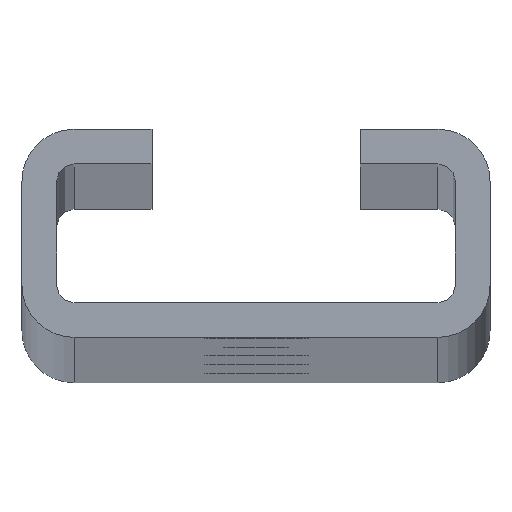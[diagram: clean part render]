
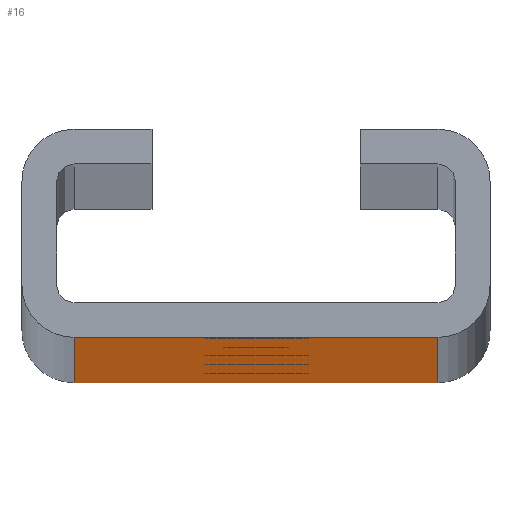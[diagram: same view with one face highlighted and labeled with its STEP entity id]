
A CAD part, top view. The second image highlights one B-rep face of the part: STEP entity #16.
In plain terms, the highlighted planar face has unit normal (0, -1, 0).
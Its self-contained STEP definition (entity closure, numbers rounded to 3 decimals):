
#16 = ADVANCED_FACE ( 'NONE', ( #761, #780, #760, #762, #782, #783, #781 ), #1365, .F. ) ;
#110 = ORIENTED_EDGE ( 'NONE', *, *, #736, .F. ) ;
#124 = ORIENTED_EDGE ( 'NONE', *, *, #737, .F. ) ;
#128 = VERTEX_POINT ( 'NONE', #799 ) ;
#132 = ORIENTED_EDGE ( 'NONE', *, *, #735, .T. ) ;
#134 = ORIENTED_EDGE ( 'NONE', *, *, #727, .T. ) ;
#136 = ORIENTED_EDGE ( 'NONE', *, *, #526, .T. ) ;
#137 = ORIENTED_EDGE ( 'NONE', *, *, #752, .T. ) ;
#138 = ORIENTED_EDGE ( 'NONE', *, *, #527, .T. ) ;
#146 = ORIENTED_EDGE ( 'NONE', *, *, #754, .T. ) ;
#187 = ORIENTED_EDGE ( 'NONE', *, *, #740, .T. ) ;
#196 = ORIENTED_EDGE ( 'NONE', *, *, #758, .T. ) ;
#199 = ORIENTED_EDGE ( 'NONE', *, *, #422, .T. ) ;
#222 = VERTEX_POINT ( 'NONE', #1216 ) ;
#225 = VERTEX_POINT ( 'NONE', #1212 ) ;
#226 = VERTEX_POINT ( 'NONE', #1211 ) ;
#227 = VERTEX_POINT ( 'NONE', #1210 ) ;
#229 = VERTEX_POINT ( 'NONE', #1205 ) ;
#234 = VERTEX_POINT ( 'NONE', #1194 ) ;
#235 = VERTEX_POINT ( 'NONE', #1193 ) ;
#239 = VERTEX_POINT ( 'NONE', #1188 ) ;
#240 = VERTEX_POINT ( 'NONE', #1187 ) ;
#243 = VERTEX_POINT ( 'NONE', #1184 ) ;
#244 = VERTEX_POINT ( 'NONE', #1183 ) ;
#246 = VERTEX_POINT ( 'NONE', #1181 ) ;
#273 = ORIENTED_EDGE ( 'NONE', *, *, #739, .T. ) ;
#276 = ORIENTED_EDGE ( 'NONE', *, *, #515, .T. ) ;
#277 = ORIENTED_EDGE ( 'NONE', *, *, #738, .T. ) ;
#331 = AXIS2_PLACEMENT_3D ( 'NONE', #1039, #1038, #1037 ) ;
#333 = AXIS2_PLACEMENT_3D ( 'NONE', #1029, #1028, #1027 ) ;
#338 = AXIS2_PLACEMENT_3D ( 'NONE', #993, #991, #988 ) ;
#339 = AXIS2_PLACEMENT_3D ( 'NONE', #985, #984, #983 ) ;
#343 = AXIS2_PLACEMENT_3D ( 'NONE', #933, #932, #931 ) ;
#345 = AXIS2_PLACEMENT_3D ( 'NONE', #897, #895, #893 ) ;
#346 = AXIS2_PLACEMENT_3D ( 'NONE', #891, #890, #889 ) ;
#347 = AXIS2_PLACEMENT_3D ( 'NONE', #886, #885, #884 ) ;
#348 = AXIS2_PLACEMENT_3D ( 'NONE', #879, #878, #876 ) ;
#353 = AXIS2_PLACEMENT_3D ( 'NONE', #846, #845, #844 ) ;
#354 = AXIS2_PLACEMENT_3D ( 'NONE', #843, #842, #841 ) ;
#356 = AXIS2_PLACEMENT_3D ( 'NONE', #829, #828, #827 ) ;
#419 = EDGE_CURVE ( 'NONE', #229, #243, #568, .T. ) ;
#422 = EDGE_CURVE ( 'NONE', #1472, #1473, #570, .T. ) ;
#462 = AXIS2_PLACEMENT_3D ( 'NONE', #1357, #1356, #1355 ) ;
#515 = EDGE_CURVE ( 'NONE', #246, #225, #579, .T. ) ;
#526 = EDGE_CURVE ( 'NONE', #235, #240, #582, .T. ) ;
#527 = EDGE_CURVE ( 'NONE', #239, #244, #586, .T. ) ;
#568 = CIRCLE ( 'NONE', #331, 3. ) ;
#570 = CIRCLE ( 'NONE', #333, 3. ) ;
#579 = LINE ( 'NONE', #1024, #581 ) ;
#581 = VECTOR ( 'NONE', #1026, 1000. ) ;
#582 = CIRCLE ( 'NONE', #338, 3. ) ;
#586 = CIRCLE ( 'NONE', #339, 3. ) ;
#610 = CIRCLE ( 'NONE', #343, 3. ) ;
#615 = CIRCLE ( 'NONE', #345, 3. ) ;
#624 = LINE ( 'NONE', #907, #627 ) ;
#626 = LINE ( 'NONE', #904, #629 ) ;
#627 = VECTOR ( 'NONE', #905, 1000. ) ;
#628 = LINE ( 'NONE', #901, #631 ) ;
#629 = VECTOR ( 'NONE', #902, 1000. ) ;
#630 = CIRCLE ( 'NONE', #347, 3. ) ;
#631 = VECTOR ( 'NONE', #900, 1000. ) ;
#632 = CIRCLE ( 'NONE', #346, 3. ) ;
#634 = CIRCLE ( 'NONE', #348, 3. ) ;
#651 = CIRCLE ( 'NONE', #353, 3. ) ;
#653 = CIRCLE ( 'NONE', #354, 3. ) ;
#660 = CIRCLE ( 'NONE', #356, 3. ) ;
#727 = EDGE_CURVE ( 'NONE', #240, #235, #610, .T. ) ;
#735 = EDGE_CURVE ( 'NONE', #225, #222, #624, .T. ) ;
#736 = EDGE_CURVE ( 'NONE', #246, #226, #626, .T. ) ;
#737 = EDGE_CURVE ( 'NONE', #226, #222, #628, .T. ) ;
#738 = EDGE_CURVE ( 'NONE', #243, #229, #615, .T. ) ;
#739 = EDGE_CURVE ( 'NONE', #234, #1471, #632, .T. ) ;
#740 = EDGE_CURVE ( 'NONE', #227, #128, #630, .T. ) ;
#742 = EDGE_CURVE ( 'NONE', #1473, #1472, #634, .T. ) ;
#752 = EDGE_CURVE ( 'NONE', #244, #239, #651, .T. ) ;
#754 = EDGE_CURVE ( 'NONE', #128, #227, #653, .T. ) ;
#758 = EDGE_CURVE ( 'NONE', #1471, #234, #660, .T. ) ;
#760 = FACE_OUTER_BOUND ( 'NONE', #1401, .T. ) ;
#761 = FACE_BOUND ( 'NONE', #1458, .T. ) ;
#762 = FACE_BOUND ( 'NONE', #1456, .T. ) ;
#765 = ORIENTED_EDGE ( 'NONE', *, *, #742, .T. ) ;
#766 = ORIENTED_EDGE ( 'NONE', *, *, #419, .T. ) ;
#780 = FACE_BOUND ( 'NONE', #1459, .T. ) ;
#781 = FACE_BOUND ( 'NONE', #1441, .T. ) ;
#782 = FACE_BOUND ( 'NONE', #1460, .T. ) ;
#783 = FACE_BOUND ( 'NONE', #1466, .T. ) ;
#799 = CARTESIAN_POINT ( 'NONE',  ( 16.5, 0., 606. ) ) ;
#804 = CARTESIAN_POINT ( 'NONE',  ( 10.5, 0., 30. ) ) ;
#811 = CARTESIAN_POINT ( 'NONE',  ( 16.5, 0., 318. ) ) ;
#824 = CARTESIAN_POINT ( 'NONE',  ( 16.5, 0., 30. ) ) ;
#827 = DIRECTION ( 'NONE',  ( 0., 0., 1. ) ) ;
#828 = DIRECTION ( 'NONE',  ( 0., 1., 0. ) ) ;
#829 = CARTESIAN_POINT ( 'NONE',  ( 13.5, 0., 318. ) ) ;
#841 = DIRECTION ( 'NONE',  ( 0., 0., 1. ) ) ;
#842 = DIRECTION ( 'NONE',  ( 0., 1., 0. ) ) ;
#843 = CARTESIAN_POINT ( 'NONE',  ( 13.5, 0., 606. ) ) ;
#844 = DIRECTION ( 'NONE',  ( 0., 0., 1. ) ) ;
#845 = DIRECTION ( 'NONE',  ( 0., 1., 0. ) ) ;
#846 = CARTESIAN_POINT ( 'NONE',  ( 13.5, 0., 1182. ) ) ;
#876 = DIRECTION ( 'NONE',  ( 0., 0., 1. ) ) ;
#878 = DIRECTION ( 'NONE',  ( 0., 1., 0. ) ) ;
#879 = CARTESIAN_POINT ( 'NONE',  ( 13.5, 0., 30. ) ) ;
#884 = DIRECTION ( 'NONE',  ( 0., 0., 1. ) ) ;
#885 = DIRECTION ( 'NONE',  ( 0., 1., 0. ) ) ;
#886 = CARTESIAN_POINT ( 'NONE',  ( 13.5, 0., 606. ) ) ;
#889 = DIRECTION ( 'NONE',  ( 0., 0., 1. ) ) ;
#890 = DIRECTION ( 'NONE',  ( 0., 1., 0. ) ) ;
#891 = CARTESIAN_POINT ( 'NONE',  ( 13.5, 0., 318. ) ) ;
#893 = DIRECTION ( 'NONE',  ( 0., 0., 1. ) ) ;
#895 = DIRECTION ( 'NONE',  ( 0., 1., 0. ) ) ;
#897 = CARTESIAN_POINT ( 'NONE',  ( 13.5, 0., 894. ) ) ;
#900 = DIRECTION ( 'NONE',  ( 0., 0., -1. ) ) ;
#901 = CARTESIAN_POINT ( 'NONE',  ( 24., 0., 1500. ) ) ;
#902 = DIRECTION ( 'NONE',  ( 1., 0., 0. ) ) ;
#904 = CARTESIAN_POINT ( 'NONE',  ( 3., 0., 1500. ) ) ;
#905 = DIRECTION ( 'NONE',  ( 1., 0., 0. ) ) ;
#907 = CARTESIAN_POINT ( 'NONE',  ( 3., 0., 0. ) ) ;
#931 = DIRECTION ( 'NONE',  ( 0., 0., 1. ) ) ;
#932 = DIRECTION ( 'NONE',  ( 0., 1., 0. ) ) ;
#933 = CARTESIAN_POINT ( 'NONE',  ( 13.5, 0., 1470. ) ) ;
#983 = DIRECTION ( 'NONE',  ( 0., 0., 1. ) ) ;
#984 = DIRECTION ( 'NONE',  ( 0., 1., 0. ) ) ;
#985 = CARTESIAN_POINT ( 'NONE',  ( 13.5, 0., 1182. ) ) ;
#988 = DIRECTION ( 'NONE',  ( 0., 0., 1. ) ) ;
#991 = DIRECTION ( 'NONE',  ( 0., 1., 0. ) ) ;
#993 = CARTESIAN_POINT ( 'NONE',  ( 13.5, 0., 1470. ) ) ;
#1024 = CARTESIAN_POINT ( 'NONE',  ( 3., 0., 1500. ) ) ;
#1026 = DIRECTION ( 'NONE',  ( 0., 0., -1. ) ) ;
#1027 = DIRECTION ( 'NONE',  ( 0., 0., 1. ) ) ;
#1028 = DIRECTION ( 'NONE',  ( 0., 1., 0. ) ) ;
#1029 = CARTESIAN_POINT ( 'NONE',  ( 13.5, 0., 30. ) ) ;
#1037 = DIRECTION ( 'NONE',  ( 0., 0., 1. ) ) ;
#1038 = DIRECTION ( 'NONE',  ( 0., 1., 0. ) ) ;
#1039 = CARTESIAN_POINT ( 'NONE',  ( 13.5, 0., 894. ) ) ;
#1181 = CARTESIAN_POINT ( 'NONE',  ( 3., 0., 1500. ) ) ;
#1183 = CARTESIAN_POINT ( 'NONE',  ( 16.5, 0., 1182. ) ) ;
#1184 = CARTESIAN_POINT ( 'NONE',  ( 10.5, 0., 894. ) ) ;
#1187 = CARTESIAN_POINT ( 'NONE',  ( 16.5, 0., 1470. ) ) ;
#1188 = CARTESIAN_POINT ( 'NONE',  ( 10.5, 0., 1182. ) ) ;
#1193 = CARTESIAN_POINT ( 'NONE',  ( 10.5, 0., 1470. ) ) ;
#1194 = CARTESIAN_POINT ( 'NONE',  ( 10.5, 0., 318. ) ) ;
#1205 = CARTESIAN_POINT ( 'NONE',  ( 16.5, 0., 894. ) ) ;
#1210 = CARTESIAN_POINT ( 'NONE',  ( 10.5, 0., 606. ) ) ;
#1211 = CARTESIAN_POINT ( 'NONE',  ( 24., 0., 1500. ) ) ;
#1212 = CARTESIAN_POINT ( 'NONE',  ( 3., 0., 0. ) ) ;
#1216 = CARTESIAN_POINT ( 'NONE',  ( 24., 0., 0. ) ) ;
#1355 = DIRECTION ( 'NONE',  ( 0., 0., 1. ) ) ;
#1356 = DIRECTION ( 'NONE',  ( 0., 1., 0. ) ) ;
#1357 = CARTESIAN_POINT ( 'NONE',  ( 3., 0., 1500. ) ) ;
#1365 = PLANE ( 'NONE',  #462 ) ;
#1401 = EDGE_LOOP ( 'NONE', ( #132, #124, #110, #276 ) ) ;
#1441 = EDGE_LOOP ( 'NONE', ( #765, #199 ) ) ;
#1456 = EDGE_LOOP ( 'NONE', ( #277, #766 ) ) ;
#1458 = EDGE_LOOP ( 'NONE', ( #138, #137 ) ) ;
#1459 = EDGE_LOOP ( 'NONE', ( #136, #134 ) ) ;
#1460 = EDGE_LOOP ( 'NONE', ( #187, #146 ) ) ;
#1466 = EDGE_LOOP ( 'NONE', ( #273, #196 ) ) ;
#1471 = VERTEX_POINT ( 'NONE', #811 ) ;
#1472 = VERTEX_POINT ( 'NONE', #824 ) ;
#1473 = VERTEX_POINT ( 'NONE', #804 ) ;
